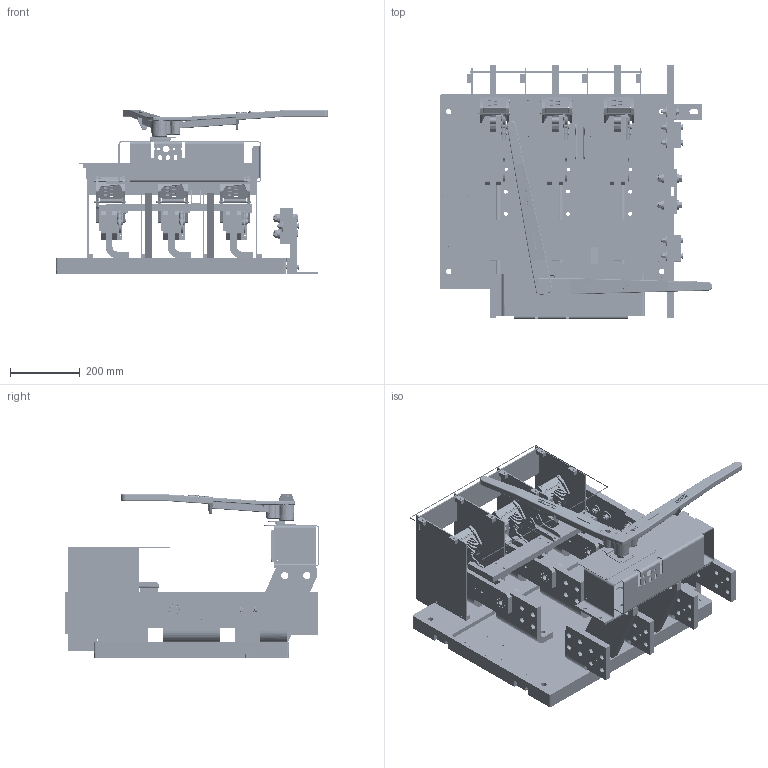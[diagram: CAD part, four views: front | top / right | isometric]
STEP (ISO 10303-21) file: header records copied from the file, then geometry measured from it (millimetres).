
FILE_DESCRIPTION(/* description */ (''),/* implementation_level */ '2;1');
FILE_NAME(/* name */ 'H:\switches\3d-templates\catalog-switches-iges-files\CATALOG-VL4612N.stp',/* time_stamp */ '2022-03-23T15:29:19-05:00',/* author */ ('MKingston'),/* organization */ (''),/* preprocessor_version */ 'ST-DEVELOPER v18.1',/* originating_system */ 'Autodesk Inventor 2022',/* authorisation */ '');
FILE_SCHEMA (('AUTOMOTIVE_DESIGN { 1 0 10303 214 3 1 1 }'));
Products named in the file (67): vl3612; 277; 671-dx; 671-cx; 671-EX; CATALOG-59-qd-arc-chute-assy; 50-ql; 50-qr; 59-qd-f; 363-a; 363-b; 59-QG; Bolted Connection; ANSI B18.6.3 - 8 - 32 x 3 1/2 SR HMS; ANSI B18.2.2 - 8 - 32, HMSNI; Bolted Connection_1; ANSI B18.6.3 - 8 - 32 x 1/2 SR HMS; Bolted Connection_2; ANSI B18.6.3 - 8 - 32 x 5/8 SR HMS; Bolted Connection_3; Bolted Connection_4; Unbrako - 1/4 x 1 1/2(2); CATALOG-3000amp-blade-assy; 671-A; 671-B; 69-gc3; 67-fc3; 70-M; 67-j; ANSI/ASM B18.1.1 - 1/4 x 3/4; ANSI/ASM B18.1.1 - 3/16 x 11/16; 235-b; 230-a; 255-z; 246-a; 820-bw1; 820-fw3; 221-RP,R3; 255-bha; 255-c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
Assembly tree (153 placements, depth 4):
  vl3612
    277
    671-dx  x3
    671-cx  x3
    671-EX  x3
    CATALOG-59-qd-arc-chute-assy  x3
      50-ql
      50-qr
      59-qd-f
      363-a
      363-b
      59-QG
      Bolted Connection
        ANSI B18.6.3 - 8 - 32 x 3 1/2 SR HMS  x2
        ANSI B18.2.2 - 8 - 32, HMSNI  x2
      Bolted Connection_1
        ANSI B18.6.3 - 8 - 32 x 1/2 SR HMS  x2
      Bolted Connection_2
        ANSI B18.6.3 - 8 - 32 x 5/8 SR HMS  x2
      Bolted Connection_3
        Unbrako - 1/4 x 1 1/2(2)
      Bolted Connection_4
        Unbrako - 1/4 x 1 1/2(2)
    CATALOG-3000amp-blade-assy  x3
      671-A
      671-B
      69-gc3
      67-fc3
      67-j
      70-M
      ANSI/ASM B18.1.1 - 1/4 x 3/4
      ANSI/ASM B18.1.1 - 3/16 x 11/16
    235-b
    230-a
    255-bha  x4
    255-z
    246-a  x2
    820-bw1
    820-fw3
    221-RP,R3
    255-c
    178-c  x8
    178-b  x8
    3000-VL-NEUTRAL-NO-GFI
      675-a  x2
      675-gf  x2
      676-l  x4
      677-f  x2
      678-r
      Bolted Connection_5
        ASTM F436 - 1/2, CW  x8
        ANSI B18.2.1 - 1/2-13 UNC - 2.5, HCSI  x4
        ASME B18.21.1 - 1/2, RHSLW  x4
        AS 2465 - 1/2  UNC  x4
      Bolted Connection_6
        ASTM F436 - 3/8, CW  x4
        ANSI B18.2.1 - 3/8-16 UNC - 2.25, HCSI  x4
        ANSI B18.22.1 - 3/8 - wide - Type B  x4
        ANSI B18.21.1 - 0.375  x4
        ANSI B18.2.2 - 3/8 - 16, HNI  x4
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Bounding box: 779.42 x 726.77 x 467.84 mm (x, y, z)
Volume: 20181854.6 mm3; surface area: 4612235.4 mm2
Topology: 200 solids, 201 shells, 5064 faces, 12414 edges, 8067 vertices
Faces by surface type: plane 2527, cylinder 1448, cone 824, bspline 142, torus 105, sphere 18
Full cylindrical faces by diameter (mm): 1.702 x8, 3.175 x4, 3.302 x32, 3.454 x4, 3.683 x8, 3.962 x4, 4.166 x18, 4.496 x24, 4.762 x49, 4.775 x8, 4.801 x8, 4.902 x14, 4.915 x24, 4.978 x9, 5.556 x3, 5.791 x6, 6.35 x19, 6.528 x51, 7.144 x18, 7.798 x11, 7.938 x3, 8.331 x2, 8.731 x2, 9.525 x15, 9.601 x2, 9.804 x2, 9.906 x13, 9.931 x8, 10.312 x36, 10.319 x4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
Entity records: 92104 total; most frequent: CARTESIAN_POINT 22904, DIRECTION 14055, ORIENTED_EDGE 13594, EDGE_CURVE 6805, AXIS2_PLACEMENT_3D 5064, VERTEX_POINT 4456, LINE 3927, VECTOR 3927
